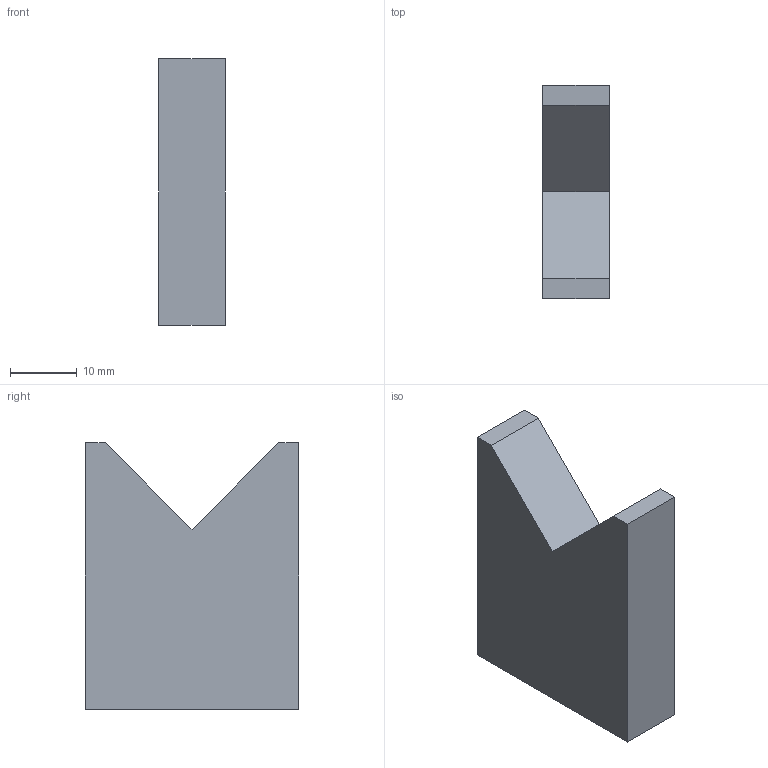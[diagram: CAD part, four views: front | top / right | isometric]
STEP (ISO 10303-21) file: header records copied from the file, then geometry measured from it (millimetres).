
FILE_DESCRIPTION(('Open CASCADE Model'),'2;1');
FILE_NAME('Open CASCADE Shape Model','2026-10-21T17:23:51',('Author'),( 'Open CASCADE'),'Open CASCADE STEP processor 7.9','Open CASCADE 7.9' ,'Unknown');
FILE_SCHEMA(('AUTOMOTIVE_DESIGN { 1 0 10303 214 1 1 1 1 }'));
Length unit declared in the file: millimetre
Products named in the file (1): Open CASCADE STEP translator 7.9 37
Bounding box: 10 x 32 x 40 mm (x, y, z)
Volume: 11110 mm3; surface area: 3769.7 mm2
Topology: 1 solids, 1 shells, 9 faces, 21 edges, 14 vertices
Faces by surface type: plane 9
Entity records: 538 total; most frequent: CARTESIAN_POINT 87, DIRECTION 83, LINE 63, VECTOR 63, ORIENTED_EDGE 42, PCURVE 42, DEFINITIONAL_REPRESENTATION 42, EDGE_CURVE 21
